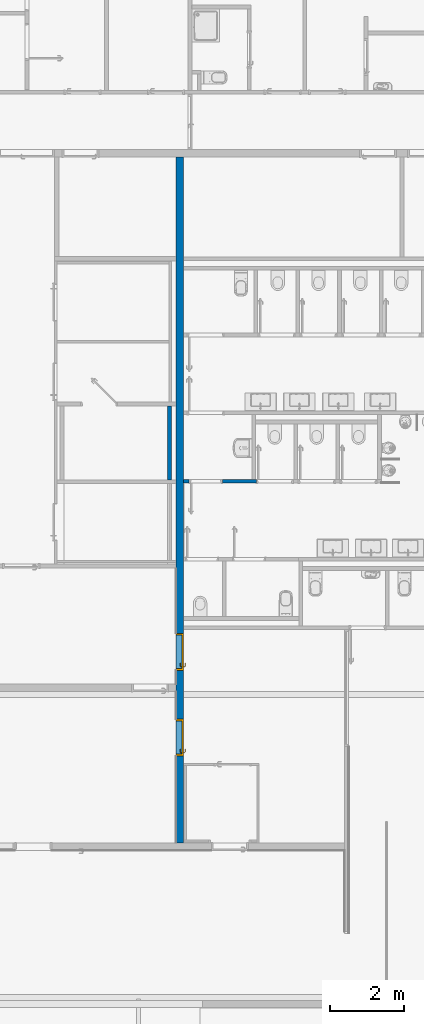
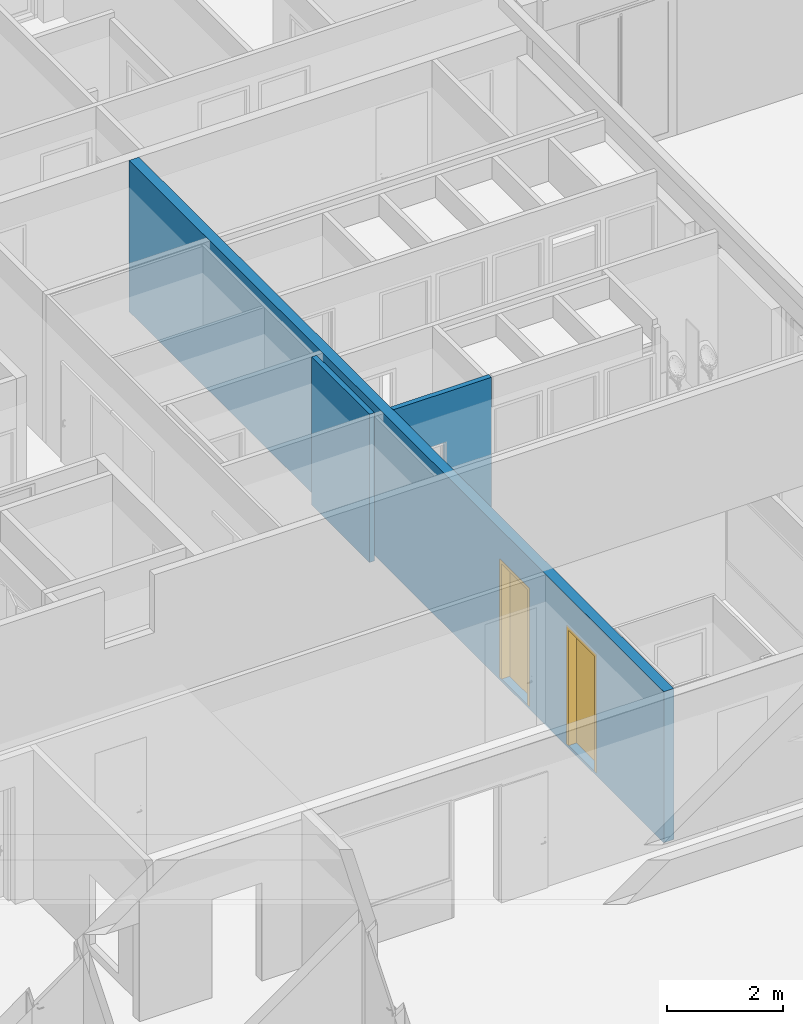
# One storey, part 99 of 240: 3 walls, 2 doors, 3 openings.
"""IFC2X3 building model written with IfcOpenShell, lengths in centimetres."""

import ifcopenshell
import ifcopenshell.guid

model = None  # the IFC model being written
_history = None  # IfcOwnerHistory: only IFC2X3 demands one
_inside = {}  # id of a spatial element -> (the spatial element, [elements in it])
_under = {}  # id of a project, library or spatial element -> (it, [spatial elements below it])
_declared = {}  # id of a project -> (the project, [libraries it declares])
_typed = {}  # id of a type object -> (the type object, [elements of that type])
_made_of = {}  # id of a material, layer set ... -> (it, [elements and type objects made of it])


def new_model(schema):
    """Start an empty IFC model of exactly this schema.

    Asked for "IFC4X3", IfcOpenShell would pick the latest addendum, in which some entities
    have other attributes; the version numbers below select the first issue.
    IFC2X3 requires an IfcOwnerHistory on every rooted entity: one is made here for all.
    """
    global model, _history
    if schema == "IFC4X3":
        model = ifcopenshell.file(schema_version=(4, 3, 0, 0))
    else:
        model = ifcopenshell.file(schema=schema)
    _inside.clear()
    _under.clear()
    _declared.clear()
    _typed.clear()
    _made_of.clear()
    _history = None
    if model.schema == "IFC2X3":
        org = make("IfcOrganization", Name="unknown")
        user = make(
            "IfcPersonAndOrganization",
            ThePerson=make("IfcPerson", FamilyName="unknown"),
            TheOrganization=org,
        )
        app = make(
            "IfcApplication",
            ApplicationDeveloper=org,
            Version="unknown",
            ApplicationFullName="unknown",
            ApplicationIdentifier="unknown",
        )
        _history = make(
            "IfcOwnerHistory",
            OwningUser=user,
            OwningApplication=app,
            ChangeAction="ADDED",
            CreationDate=0,
        )
    return model


def make(cls, **values):
    """One entity of the class cls with the attributes given. An attribute that is None is left unset."""
    return model.create_entity(
        cls, **{name: value for name, value in values.items() if value is not None}
    )


def entity(cls, *values):
    """Any entity or typed value of the class cls, its attributes in the order of the schema. None: left unset."""
    e = model.create_entity(cls)
    for i, value in enumerate(values):
        if value is not None:
            e[i] = value
    return e


def rooted(cls, **values):
    """An entity with a GlobalId (a new one), such as an element, a storey or a relation."""
    return make(cls, GlobalId=ifcopenshell.guid.new(), OwnerHistory=_history, **values)


def si_unit(unit_type, name, prefix=None):
    """IfcSIUnit, for example si_unit("LENGTHUNIT", "METRE", prefix="MILLI")."""
    return make("IfcSIUnit", UnitType=unit_type, Prefix=prefix, Name=name)


def converted_unit(unit_type, name, factor, base, dimensions=None, offset=None):
    """IfcConversionBasedUnit, such as the inch: factor (a typed value) times the base unit."""
    return make(
        "IfcConversionBasedUnit"
        if offset is None
        else "IfcConversionBasedUnitWithOffset",
        ConversionOffset=offset,
        Dimensions=None
        if dimensions is None
        else entity("IfcDimensionalExponents", *dimensions),
        UnitType=unit_type,
        Name=name,
        ConversionFactor=make(
            "IfcMeasureWithUnit", ValueComponent=factor, UnitComponent=base
        ),
    )


def derived_unit(unit_type, elements):
    """IfcDerivedUnit: a product of units, each with its exponent."""
    return make(
        "IfcDerivedUnit",
        Elements=[
            make("IfcDerivedUnitElement", Unit=unit, Exponent=power)
            for unit, power in elements
        ],
        UnitType=unit_type,
    )


def assignment(units):
    """IfcUnitAssignment: the units of a project."""
    return None if units is None else make("IfcUnitAssignment", Units=units)


def point(xyz):
    """IfcCartesianPoint."""
    return None if xyz is None else make("IfcCartesianPoint", Coordinates=xyz)


def direction(xyz):
    """IfcDirection."""
    return None if xyz is None else make("IfcDirection", DirectionRatios=xyz)


def frame(location, z_axis=None, x_axis=None):
    """IfcAxis2Placement3D, a coordinate frame: its origin and axes. An axis left out is left unset."""
    return make(
        "IfcAxis2Placement3D",
        Location=point(location),
        Axis=direction(z_axis),
        RefDirection=direction(x_axis),
    )


def frame_2d(location, x_axis=None):
    """IfcAxis2Placement2D, a coordinate frame in the plane: its origin and x axis."""
    return make(
        "IfcAxis2Placement2D", Location=point(location), RefDirection=direction(x_axis)
    )


def origin():
    """The frame at (0, 0, 0) with its axes left unset."""
    return frame((0.0, 0.0, 0.0))


def place(relative_to, where):
    """IfcLocalPlacement: puts the frame where relative to a parent placement (None: the world)."""
    return make(
        "IfcLocalPlacement", PlacementRelTo=relative_to, RelativePlacement=where
    )


def context(
    kind, dimensions, precision=None, world=None, true_north=None, identifier=None
):
    """IfcGeometricRepresentationContext, for example the 3D "Model" context."""
    return make(
        "IfcGeometricRepresentationContext",
        ContextIdentifier=identifier,
        ContextType=kind,
        CoordinateSpaceDimension=dimensions,
        Precision=precision,
        WorldCoordinateSystem=world,
        TrueNorth=true_north,
    )


def subcontext(parent, identifier, kind, view, scale=None):
    """IfcGeometricRepresentationSubContext, for example "Body" below "Model"."""
    return make(
        "IfcGeometricRepresentationSubContext",
        ContextIdentifier=identifier,
        ContextType=kind,
        ParentContext=parent,
        TargetScale=scale,
        TargetView=view,
    )


def project(units=None, contexts=None):
    """IfcProject with its units and contexts."""
    return rooted(
        "IfcProject",
        Name="project",
        RepresentationContexts=contexts,
        UnitsInContext=assignment(units),
    )


def spatial(cls, under=None, at=None, **own):
    """A site, building, storey or space (cls), placed at a placement, below another one or the project."""
    s = rooted(cls, ObjectPlacement=at, **own)
    if under is not None:
        _under.setdefault(under.id(), (under, []))[1].append(s)
    return s


def profile(cls, at=None, kind="AREA", **sizes):
    """A parametric profile (cls). Its sizes go by their IFC names, for example OverallWidth=200.0."""
    return make(cls, ProfileType=kind, Position=at, **sizes)


def rectangle(**sizes):
    """IfcRectangleProfileDef."""
    return profile("IfcRectangleProfileDef", **sizes)


def extrude(swept, where, along, depth):
    """IfcExtrudedAreaSolid: the profile swept, set in the frame where, extruded along a direction by depth."""
    return make(
        "IfcExtrudedAreaSolid",
        SweptArea=swept,
        Position=where,
        ExtrudedDirection=direction(along),
        Depth=depth,
    )


def faces_of(points, faces, orient=None, outer=None):
    """IfcFace entities. A face is a list of loops; a loop is a list of indices into points, from 0.

    orient and outer hold one flag for each loop. By default every Orientation is true, the
    first loop of a face is its IfcFaceOuterBound and the others are IfcFaceBound.
    """
    made = []
    for i, loops in enumerate(faces):
        bounds = []
        for j, loop in enumerate(loops):
            is_outer = j == 0 if outer is None else outer[i][j]
            bounds.append(
                make(
                    "IfcFaceOuterBound" if is_outer else "IfcFaceBound",
                    Bound=make("IfcPolyLoop", Polygon=[points[k] for k in loop]),
                    Orientation=True if orient is None else orient[i][j],
                )
            )
        made.append(make("IfcFace", Bounds=bounds))
    return made


def faceted_brep(points, faces, orient=None, outer=None, voids=None):
    """IfcFacetedBrep: a solid bounded by flat faces; with voids (closed shells), ...WithVoids."""
    shared = [point(p) for p in points]
    hull = make("IfcClosedShell", CfsFaces=faces_of(shared, faces, orient, outer))
    if voids is None:
        return make("IfcFacetedBrep", Outer=hull)
    return make(
        "IfcFacetedBrepWithVoids",
        Outer=hull,
        Voids=[
            make(cls, CfsFaces=faces_of(shared, fs, o, b)) for cls, fs, o, b in voids
        ],
    )


def shape(context_of_items, identifier, shape_type, items):
    """IfcShapeRepresentation: the items that make up one representation, for example the "Body"."""
    return make(
        "IfcShapeRepresentation",
        ContextOfItems=context_of_items,
        RepresentationIdentifier=identifier,
        RepresentationType=shape_type,
        Items=items,
    )


def source(mapping_origin, context_of_items, identifier, shape_type, items):
    """IfcRepresentationMap: a shape defined once, which mapped items show again and again."""
    return make(
        "IfcRepresentationMap",
        MappingOrigin=mapping_origin,
        MappedRepresentation=shape(context_of_items, identifier, shape_type, items),
    )


def transform(
    local_origin,
    x_axis=None,
    y_axis=None,
    z_axis=None,
    scale=None,
    scale2=None,
    scale3=None,
    uniform=True,
):
    """IfcCartesianTransformationOperator3D, or its non-uniform kind. x_axis, y_axis, z_axis: its Axis1, 2, 3."""
    if uniform:
        return make(
            "IfcCartesianTransformationOperator3D",
            Axis1=direction(x_axis),
            Axis2=direction(y_axis),
            LocalOrigin=point(local_origin),
            Scale=scale,
            Axis3=direction(z_axis),
        )
    return make(
        "IfcCartesianTransformationOperator3DnonUniform",
        Axis1=direction(x_axis),
        Axis2=direction(y_axis),
        LocalOrigin=point(local_origin),
        Scale=scale,
        Axis3=direction(z_axis),
        Scale2=scale2,
        Scale3=scale3,
    )


def mapped(mapping_source, mapping_target):
    """IfcMappedItem: shows the shape of a source again, moved by a transform."""
    return make(
        "IfcMappedItem", MappingSource=mapping_source, MappingTarget=mapping_target
    )


def material(Name=None, Category=None):
    """IfcMaterial."""
    return make("IfcMaterial", Name=Name, Category=Category)


def material_list(materials):
    """IfcMaterialList."""
    return make("IfcMaterialList", Materials=materials)


def layer(
    of_material, thickness, ventilated=None, Name=None, Category=None, Priority=None
):
    """IfcMaterialLayer: one layer of a wall or slab, of a material (None: an air gap)."""
    return make(
        "IfcMaterialLayer",
        Material=of_material,
        LayerThickness=thickness,
        IsVentilated=ventilated,
        Name=Name,
        Category=Category,
        Priority=Priority,
    )


def layer_set(layers, Name=None):
    """IfcMaterialLayerSet."""
    return make("IfcMaterialLayerSet", MaterialLayers=layers, LayerSetName=Name)


def layer_usage(for_layer_set, set_direction, sense, offset, extent=None):
    """IfcMaterialLayerSetUsage: how a layer set lies in its element."""
    return make(
        "IfcMaterialLayerSetUsage",
        ForLayerSet=for_layer_set,
        LayerSetDirection=set_direction,
        DirectionSense=sense,
        OffsetFromReferenceLine=offset,
        ReferenceExtent=extent,
    )


def made_of(thing, what):
    """Note that an element or type object is made of a material, layer set ...; save() writes the relation."""
    if what is not None:
        _made_of.setdefault(what.id(), (what, []))[1].append(thing)
    return thing


def type_object(cls, material=None, **own):
    """A type object (cls), such as IfcWallType, which elements share."""
    return made_of(rooted(cls, **own), material)


def type_shapes(of_type, sources):
    """Give a type object the sources (RepresentationMaps) that its elements show as mapped items."""
    of_type.RepresentationMaps = sources


def element(
    cls,
    number,
    at=None,
    inside=None,
    cuts=None,
    type_object=None,
    material=None,
    context=None,
    identifier="Body",
    shape_type=None,
    held_by="IfcProductDefinitionShape",
    body=None,
    shapes=None,
    **own,
):
    """One element of the class cls, such as IfcWall. Its Tag is "e" and its number.

    at: its placement. inside: the storey or other place that contains it. cuts: it is an
    opening in that element (IfcRelVoidsElement). A single representation is given by context,
    identifier, shape_type and body (its items); several are given by shapes. held_by: the class
    of the entity that holds the representations. save() writes the other relations.
    """
    e = rooted(cls, Tag="e%d" % number, ObjectPlacement=at, **own)
    if body is not None:
        shapes = [shape(context, identifier, shape_type, body)]
    if shapes is not None:
        e.Representation = make(held_by, Representations=shapes)
    if inside is not None:
        _inside.setdefault(inside.id(), (inside, []))[1].append(e)
    if cuts is not None:
        rooted(
            "IfcRelVoidsElement", RelatingBuildingElement=cuts, RelatedOpeningElement=e
        )
    if type_object is not None:
        _typed.setdefault(type_object.id(), (type_object, []))[1].append(e)
    return made_of(e, material)


def fill(opening, filler):
    """IfcRelFillsElement: the door or window that sits in an opening."""
    return rooted(
        "IfcRelFillsElement",
        RelatingOpeningElement=opening,
        RelatedBuildingElement=filler,
    )


def aggregate(whole, parts):
    """IfcRelAggregates: a whole, such as a stair, and the parts it consists of."""
    return rooted("IfcRelAggregates", RelatingObject=whole, RelatedObjects=parts)


def save(model, path):
    """Write the relations noted so far, then the file.

    IfcRelAggregates (storeys below a building ...), IfcRelContainedInSpatialStructure (elements
    in a storey), IfcRelDefinesByType, IfcRelAssociatesMaterial and IfcRelDeclares: one each for
    every whole, place, type object, material and project.
    """
    for whole, parts in _under.values():
        aggregate(whole, parts)
    for where, things in _inside.values():
        rooted(
            "IfcRelContainedInSpatialStructure",
            RelatedElements=things,
            RelatingStructure=where,
        )
    for kind, things in _typed.values():
        rooted("IfcRelDefinesByType", RelatedObjects=things, RelatingType=kind)
    for what, things in _made_of.values():
        rooted("IfcRelAssociatesMaterial", RelatedObjects=things, RelatingMaterial=what)
    for by, libraries in _declared.values():
        rooted("IfcRelDeclares", RelatingContext=by, RelatedDefinitions=libraries)
    model.write(path)


model = new_model("IFC2X3")

# Units and contexts
model_context = context("Model", 3, precision=0.001, world=origin(), true_north=direction((6.12303176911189e-17, 1.0)))
body_context = subcontext(model_context, "Body", "Model", "MODEL_VIEW")
ifc_project = project(units=[si_unit("LENGTHUNIT", "METRE", prefix="CENTI"), si_unit("AREAUNIT", "SQUARE_METRE"), si_unit("VOLUMEUNIT", "CUBIC_METRE"), converted_unit("PLANEANGLEUNIT", "DEGREE", entity("IfcRatioMeasure", 0.0174532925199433), si_unit("PLANEANGLEUNIT", "RADIAN"), dimensions=[0, 0, 0, 0, 0, 0, 0]), si_unit("MASSUNIT", "GRAM", prefix="KILO"), derived_unit("MASSDENSITYUNIT", [(si_unit("MASSUNIT", "GRAM", prefix="KILO"), 1), (si_unit("LENGTHUNIT", "METRE"), -3)]), si_unit("TIMEUNIT", "SECOND"), si_unit("FREQUENCYUNIT", "HERTZ"), si_unit("THERMODYNAMICTEMPERATUREUNIT", "DEGREE_CELSIUS"), derived_unit("THERMALTRANSMITTANCEUNIT", [(si_unit("MASSUNIT", "GRAM", prefix="KILO"), 1), (si_unit("THERMODYNAMICTEMPERATUREUNIT", "KELVIN"), -1), (si_unit("TIMEUNIT", "SECOND"), -3)]), derived_unit("VOLUMETRICFLOWRATEUNIT", [(si_unit("LENGTHUNIT", "METRE"), 3), (si_unit("TIMEUNIT", "SECOND"), -1)]), si_unit("ELECTRICCURRENTUNIT", "AMPERE"), si_unit("ELECTRICVOLTAGEUNIT", "VOLT"), si_unit("POWERUNIT", "WATT"), si_unit("FORCEUNIT", "NEWTON", prefix="KILO"), si_unit("ILLUMINANCEUNIT", "LUX"), si_unit("LUMINOUSFLUXUNIT", "LUMEN"), si_unit("LUMINOUSINTENSITYUNIT", "CANDELA"), derived_unit("USERDEFINED", [(si_unit("MASSUNIT", "GRAM", prefix="KILO"), -1), (si_unit("LENGTHUNIT", "METRE"), -2), (si_unit("TIMEUNIT", "SECOND"), 3), (si_unit("LUMINOUSFLUXUNIT", "LUMEN"), 1)]), derived_unit("LINEARVELOCITYUNIT", [(si_unit("LENGTHUNIT", "METRE"), 1), (si_unit("TIMEUNIT", "SECOND"), -1)]), si_unit("PRESSUREUNIT", "PASCAL"), derived_unit("USERDEFINED", [(si_unit("LENGTHUNIT", "METRE"), -2), (si_unit("MASSUNIT", "GRAM", prefix="KILO"), 1), (si_unit("TIMEUNIT", "SECOND"), -2)])], contexts=[model_context])

# Site, building, storey
site_placement = place(None, frame((-2781.94577612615, 7442.24238424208, 0.0)))
site = spatial("IfcSite", under=ifc_project, at=site_placement, Name="Default", CompositionType="ELEMENT")
building_placement = place(site_placement, origin())
building = spatial("IfcBuilding", under=site, at=building_placement, CompositionType="ELEMENT")
storey_placement = place(building_placement, origin())
storey = spatial("IfcBuildingStorey", under=building, at=storey_placement, Name="N00 - COO", CompositionType="ELEMENT", Elevation=0.0)

# Wall, openings, doors
ifc_material_1 = material(Name="01 - Maçonnerie")
ifc_layer_1 = layer(ifc_material_1, 20.0)
ifc_layer_set_1 = layer_set([ifc_layer_1], Name="Mur de base:04 - Structure - béton - 20cm")
ifc_layer_usage_1 = layer_usage(ifc_layer_set_1, "AXIS2", "NEGATIVE", 10.0)
wall_type_1 = type_object("IfcWallType", Name="Mur de base:04 - Structure - béton - 20cm", PredefinedType="STANDARD", material=ifc_layer_set_1)
wall_1_placement = place(building_placement, frame((-9687.0, -1930.07903364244, -6.0), z_axis=(0.0, 0.0, 1.0), x_axis=(0.0, -1.0, 0.0)))
wall_1 = element("IfcWallStandardCase", 1, at=wall_1_placement, inside=storey, type_object=wall_type_1, material=ifc_layer_usage_1, Name="Mur de base:04 - Structure - béton - 20cm", ObjectType="Mur de base:04 - Structure - béton - 20cm", context=body_context, shape_type="SweptSolid", body=[
    extrude(rectangle(XDim=1850.64062750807, YDim=19.9999999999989, at=frame_2d((925.320313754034, -6.21724893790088e-15), x_axis=(-1.0, 0.0))), origin(), (0.0, 0.0, 1.0), 319.0),
])
opening_1_placement = place(wall_1_placement, frame((1285.0, -10.0, 6.0)))
opening_1 = element("IfcOpeningElement", 2, at=opening_1_placement, cuts=wall_1, Name="Int. Simple:PP simple (0.93m x 2.50m):1", ObjectType="Opening", context=body_context, shape_type="SweptSolid", body=[
    extrude(rectangle(XDim=248.500000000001, YDim=99.9999999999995, at=frame_2d((124.250000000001, 49.9999999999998), x_axis=(1.0, 0.0))), frame((0.0, 0.0, 0.0), z_axis=(0.0, 1.0, 0.0), x_axis=(0.0, 0.0, 1.0)), (0.0, 0.0, 1.0), 20.0),
])
opening_2_placement = place(wall_1_placement, frame((1516.50000000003, -10.0, 6.0)))
opening_2 = element("IfcOpeningElement", 3, at=opening_2_placement, cuts=wall_1, Name="Int. Simple:PP simple (0.93m x 2.50m):1", ObjectType="Opening", context=body_context, shape_type="SweptSolid", body=[
    extrude(rectangle(XDim=248.500000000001, YDim=99.9999999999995, at=frame_2d((124.250000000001, 49.9999999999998), x_axis=(1.0, 0.0))), frame((0.0, 0.0, 0.0), z_axis=(0.0, 1.0, 0.0), x_axis=(0.0, 0.0, 1.0)), (0.0, 0.0, 1.0), 20.0),
])
ifc_material_2 = material(Name="Finition Peinture - Blanc satiné")
ifc_material_3 = material(Name="Bois - Panneau de porte")
ifc_material_4 = material(Name="Bois - Cadre de porte")
ifc_material_list_1 = material_list([ifc_material_2, ifc_material_3, ifc_material_4])
ifc_material_list_2 = material_list([ifc_material_2, ifc_material_3, ifc_material_4])
door_style = type_object("IfcDoorStyle", Name="PP simple (0.93m x 2.50m)", ConstructionType="NOTDEFINED", OperationType="SINGLE_SWING_LEFT", ParameterTakesPrecedence=False, Sizeable=False, material=ifc_material_list_2)
shared_shape = source(origin(), body_context, "Body", "Brep", [
    faceted_brep([(10.5352761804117, -0.500000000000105, 86.6003983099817), (11.5000000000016, -0.500000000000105, 87.0), (11.5000000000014, -0.500000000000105, 108.0), (10.5352761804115, -0.500000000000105, 108.399601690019), (9.50000000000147, -0.500000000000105, 108.535898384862), (8.46472381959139, -0.500000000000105, 108.399601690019), (7.50000000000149, -0.500000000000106, 108.0), (7.50000000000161, -0.500000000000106, 87.0), (8.46472381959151, -0.500000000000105, 86.6003983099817), (9.50000000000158, -0.500000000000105, 86.464101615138), (10.5352761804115, 0.0, 108.399601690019), (11.5000000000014, 0.0, 108.0), (11.5000000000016, 0.0, 87.0), (10.5352761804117, 0.0, 86.6003983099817), (9.50000000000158, 0.0, 86.464101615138), (8.46472381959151, 0.0, 86.6003983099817), (7.50000000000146, 0.0, 87.0), (7.50000000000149, 0.0, 108.0), (8.46472381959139, 0.0, 108.399601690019), (9.50000000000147, 0.0, 108.535898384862)], [[[0, 1, 2, 3, 4, 5, 6, 7, 8, 9]], [[10, 11, 12, 13, 14, 15, 16, 17, 18, 19]], [[16, 15, 8, 7]], [[8, 15, 14, 9]], [[14, 13, 0, 9]], [[13, 12, 1, 0]], [[2, 1, 12, 11]], [[11, 10, 3, 2]], [[3, 10, 19, 4]], [[19, 18, 5, 4]], [[18, 17, 6, 5]], [[7, 6, 17, 16]]]),
    faceted_brep([(10.5352761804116, 4.0, 86.6003983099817), (11.5000000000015, 4.0, 87.0), (11.5000000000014, 4.0, 108.0), (10.5352761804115, 4.0, 108.399601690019), (9.50000000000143, 4.0, 108.535898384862), (8.46472381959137, 4.0, 108.399601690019), (7.50000000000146, 4.0, 108.0), (7.50000000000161, 4.0, 87.0), (8.46472381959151, 4.0, 86.6003983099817), (9.50000000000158, 4.0, 86.464101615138), (10.5352761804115, 4.49999999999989, 108.399601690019), (11.5000000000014, 4.49999999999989, 108.0), (11.5000000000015, 4.49999999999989, 87.0), (10.5352761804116, 4.49999999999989, 86.6003983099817), (9.50000000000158, 4.49999999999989, 86.464101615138), (8.46472381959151, 4.49999999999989, 86.6003983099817), (7.50000000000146, 4.49999999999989, 87.0), (7.50000000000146, 4.49999999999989, 108.0), (8.46472381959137, 4.49999999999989, 108.399601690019), (9.50000000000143, 4.49999999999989, 108.535898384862)], [[[0, 1, 2, 3, 4, 5, 6, 7, 8, 9]], [[10, 11, 12, 13, 14, 15, 16, 17, 18, 19]], [[11, 10, 3, 2]], [[3, 10, 19, 4]], [[19, 18, 5, 4]], [[18, 17, 6, 5]], [[7, 6, 17, 16]], [[16, 15, 8, 7]], [[8, 15, 14, 9]], [[14, 13, 0, 9]], [[13, 12, 1, 0]], [[2, 1, 12, 11]]]),
    faceted_brep([(9.29747013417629, -0.500000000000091, 100.778044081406), (9.70252986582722, -0.500000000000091, 100.778044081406), (10.1000000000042, -0.500000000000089, 100.699999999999), (10.1000000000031, -0.500000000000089, 99.3000000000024), (9.7025298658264, -0.500000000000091, 99.2219559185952), (9.29747013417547, -0.500000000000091, 99.221955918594), (8.8999999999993, -0.500000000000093, 99.2999999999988), (8.89999999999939, -0.500000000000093, 100.7), (8.89999999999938, -3.26509507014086, 100.7), (9.29747013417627, -3.10045754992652, 100.778044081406), (10.9023585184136, -4.70534593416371, 100.778044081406), (11.0701397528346, -4.30028620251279, 100.778044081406), (9.7025298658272, -2.93267631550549, 100.778044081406), (10.1000000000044, -2.76803879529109, 100.7), (10.1000000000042, -2.76803879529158, 99.3000000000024), (9.7025298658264, -2.93267631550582, 99.2219559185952), (11.0701397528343, -4.30028620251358, 99.2219559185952), (10.9023585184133, -4.70534593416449, 99.221955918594), (9.29747013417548, -3.10045754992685, 99.221955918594), (8.89999999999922, -3.26509507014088, 99.2999999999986), (10.7377209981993, -5.10281606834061, 100.7), (11.2347772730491, -3.90281606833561, 100.7), (11.2347772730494, -3.90281606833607, 99.3000000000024), (10.7377209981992, -5.10281606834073, 99.2999999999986), (19.5018640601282, -5.1028160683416, 99.2999999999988), (19.5018640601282, -4.70534593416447, 99.221955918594), (19.5018640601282, -4.30028620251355, 99.2219559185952), (19.5018640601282, -3.90281606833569, 99.3000000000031), (19.5018640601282, -3.90281606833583, 100.7), (19.5018640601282, -4.30028620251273, 100.778044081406), (19.5018640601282, -4.70534593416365, 100.778044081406), (19.5018640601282, -5.10281606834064, 100.699999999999), (14.7307697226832, -5.10281606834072, 100.7), (15.2860019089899, -4.5028160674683, 100.78786867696), (15.3683206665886, -3.9028160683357, 100.7), (15.3683206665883, -3.90281606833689, 99.3000000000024), (15.2860018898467, -4.50281607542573, 99.2121313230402), (14.7307700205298, -5.10281606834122, 99.2999999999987)], [[[0, 1, 2, 3, 4, 5, 6, 7]], [[8, 9, 0, 7]], [[9, 10, 11, 12, 1, 0]], [[12, 13, 2, 1]], [[3, 2, 13, 14]], [[14, 15, 4, 3]], [[15, 16, 17, 18, 5, 4]], [[18, 19, 6, 5]], [[7, 6, 19, 8]], [[20, 10, 9, 8]], [[11, 21, 13, 12]], [[14, 13, 21, 22]], [[22, 16, 15, 14]], [[17, 23, 19, 18]], [[8, 19, 23, 20]], [[24, 25, 26, 27, 28, 29, 30, 31]], [[32, 30, 33]], [[31, 30, 32]], [[10, 20, 32]], [[33, 34, 11]], [[21, 11, 34]], [[34, 29, 28]], [[30, 29, 33]], [[29, 34, 33]], [[10, 32, 33]], [[10, 33, 11]], [[22, 21, 34, 28, 27, 35]], [[35, 26, 36]], [[37, 36, 25]], [[22, 35, 16]], [[35, 27, 26]], [[24, 37, 25]], [[23, 17, 37]], [[37, 17, 36]], [[17, 16, 36]], [[16, 35, 36]], [[25, 36, 26]], [[20, 23, 37, 24, 31, 32]]]),
    faceted_brep([(9.29747013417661, 4.49999999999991, 100.778044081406), (8.89999999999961, 4.4999999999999, 100.7), (8.89999999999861, 4.4999999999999, 99.2999999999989), (9.29747013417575, 4.49999999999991, 99.221955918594), (9.70252986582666, 4.49999999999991, 99.2219559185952), (10.1000000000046, 4.49999999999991, 99.3000000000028), (10.1000000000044, 4.49999999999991, 100.7), (9.70252986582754, 4.49999999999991, 100.778044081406), (10.1000000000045, 6.7485204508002, 99.3000000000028), (10.1000000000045, 6.74852045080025, 100.7), (9.70252986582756, 6.91315797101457, 100.778044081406), (11.083890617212, 8.29451872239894, 100.778044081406), (10.916109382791, 8.69957845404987, 100.778044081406), (9.29747013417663, 7.0809392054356, 100.778044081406), (8.89999999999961, 7.24557672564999, 100.7), (8.89999999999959, 7.2455767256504, 99.2999999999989), (9.29747013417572, 7.08093920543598, 99.221955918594), (10.9161093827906, 8.69957845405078, 99.221955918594), (11.0838906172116, 8.29451872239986, 99.2219559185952), (9.70252986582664, 6.91315797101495, 99.2219559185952), (11.2485281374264, 7.89704858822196, 99.3000000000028), (11.2485281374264, 7.89704858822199, 100.7), (10.7514718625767, 9.09704858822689, 100.7), (10.7514718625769, 9.0970485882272, 99.2999999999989), (19.5045783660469, 7.89704858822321, 99.3000000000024), (19.5045783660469, 8.29451872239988, 99.2219559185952), (19.5045783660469, 8.6995784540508, 99.221955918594), (19.5045783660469, 9.09704858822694, 99.2999999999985), (19.5045783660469, 9.09704858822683, 100.7), (19.5045783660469, 8.69957845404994, 100.778044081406), (19.5045783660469, 8.29451872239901, 100.778044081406), (19.5045783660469, 7.89704858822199, 100.7), (15.3765520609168, 7.89704858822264, 99.3000000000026), (15.3765532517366, 7.89704858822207, 100.7), (15.294234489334, 8.49704858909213, 100.78786867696), (14.7445205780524, 9.09704858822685, 100.7), (14.7445204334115, 9.09704858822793, 99.2999999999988), (15.2942345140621, 8.49704858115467, 99.2121313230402)], [[[0, 1, 2, 3, 4, 5, 6, 7]], [[6, 5, 8, 9]], [[9, 10, 7, 6]], [[10, 11, 12, 13, 0, 7]], [[13, 14, 1, 0]], [[2, 1, 14, 15]], [[15, 16, 3, 2]], [[16, 17, 18, 19, 4, 3]], [[19, 8, 5, 4]], [[9, 8, 20, 21]], [[21, 11, 10, 9]], [[12, 22, 14, 13]], [[15, 14, 22, 23]], [[23, 17, 16, 15]], [[18, 20, 8, 19]], [[24, 25, 26, 27, 28, 29, 30, 31]], [[21, 20, 32, 24, 31, 33]], [[33, 30, 34]], [[35, 34, 29]], [[21, 33, 11]], [[33, 31, 30]], [[28, 35, 29]], [[22, 12, 35]], [[35, 12, 34]], [[12, 11, 34]], [[11, 33, 34]], [[29, 34, 30]], [[22, 35, 28, 27, 36, 23]], [[36, 26, 37]], [[27, 26, 36]], [[17, 23, 36]], [[37, 32, 18]], [[20, 18, 32]], [[32, 25, 24]], [[26, 25, 37]], [[25, 32, 37]], [[17, 36, 37]], [[17, 37, 18]]]),
    faceted_brep([(3.50000000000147, 4.0, 245.0), (96.5000000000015, 4.0, 245.0), (96.5000000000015, 4.0, 0.0), (3.50000000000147, 4.0, 0.0), (3.50000000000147, 0.0, 245.0), (3.50000000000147, 0.0, 0.0), (96.5000000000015, 0.0, 0.0), (96.5000000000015, 0.0, 245.0)], [[[0, 1, 2, 3]], [[4, 5, 6, 7]], [[1, 0, 4, 7]], [[2, 1, 7, 6]], [[3, 2, 6, 5]], [[0, 3, 5, 4]]]),
    faceted_brep([(0.0, 20.0, 0.0), (-1.50000000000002, 20.0, 0.0), (-1.50000000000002, 20.5000000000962, 0.0), (5.0, 20.5000000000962, 0.0), (5.0, 4.0, 0.0), (3.50000000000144, 4.0, 0.0), (3.50000000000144, -0.500000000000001, 0.0), (-1.50000000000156, -0.500000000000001, 0.0), (-1.50000000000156, 0.0, 0.0), (0.0, 0.0, 0.0), (0.0, 0.0, 248.500000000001), (0.0, 20.0, 248.500000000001), (100.0, 20.0, 248.500000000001), (100.0, 20.0, 0.0), (101.5, 20.0, 0.0), (101.5, 20.0, 250.0), (-1.50000000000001, 20.0, 250.0), (5.0, 20.5000000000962, 243.5), (5.0, 4.0, 243.5), (95.0, 4.0, 243.5), (95.0, 4.0, 0.0), (96.499999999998, 4.0, 0.0), (96.499999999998, 4.0, 245.0), (3.50000000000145, 4.0, 245.0), (100.0, 0.0, 248.500000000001), (100.0, 0.0, 0.0), (101.500000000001, 0.0, 0.0), (101.500000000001, -0.500000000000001, 0.0), (96.499999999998, -0.500000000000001, 0.0), (95.0, 20.5000000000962, 0.0), (101.5, 20.5000000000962, 0.0), (95.0, 20.5000000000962, 243.5), (3.50000000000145, -0.500000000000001, 245.0), (96.499999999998, -0.500000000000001, 245.0), (101.500000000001, -0.500000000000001, 250.0), (-1.50000000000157, -0.500000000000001, 250.0), (-1.50000000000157, 0.0, 250.0), (101.500000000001, 0.0, 250.0), (-1.50000000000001, 20.5000000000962, 250.0), (101.5, 20.5000000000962, 250.0)], [[[0, 1, 2, 3, 4, 5, 6, 7, 8, 9]], [[0, 9, 10, 11]], [[1, 0, 11, 12, 13, 14, 15, 16]], [[3, 17, 18, 4]], [[5, 4, 18, 19, 20, 21, 22, 23]], [[12, 24, 25, 13]], [[13, 25, 26, 27, 28, 21, 20, 29, 30, 14]], [[19, 31, 29, 20]], [[11, 10, 24, 12]], [[18, 17, 31, 19]], [[5, 23, 32, 6]], [[7, 6, 32, 33, 28, 27, 34, 35]], [[8, 7, 35, 36]], [[9, 8, 36, 37, 26, 25, 24, 10]], [[2, 1, 16, 38]], [[3, 2, 38, 39, 30, 29, 31, 17]], [[33, 22, 21, 28]], [[37, 34, 27, 26]], [[39, 15, 14, 30]], [[32, 23, 22, 33]], [[36, 35, 34, 37]], [[38, 16, 15, 39]]]),
])
type_shapes(door_style, [shared_shape])
door_1_placement = place(opening_1_placement, frame((100.0, 20.0, 0.0), z_axis=(0.0, 0.0, 1.0), x_axis=(-1.0, 0.0, 0.0)))
door_1 = element("IfcDoor", 4, at=door_1_placement, inside=storey, type_object=door_style, material=ifc_material_list_1, Name="Int. Simple:PP simple (0.93m x 2.50m)", ObjectType="Int. Simple:PP simple (0.93m x 2.50m)", OverallHeight=248.500000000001, OverallWidth=99.9999999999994, context=body_context, shape_type="MappedRepresentation", body=[
    mapped(shared_shape, transform((0.0, 0.0, 0.0), scale=1.0)),
])
fill(opening_1, door_1)
ifc_material_list_3 = material_list([ifc_material_2, ifc_material_3, ifc_material_4])
door_2_placement = place(opening_2_placement, frame((100.0, 20.0, 0.0), z_axis=(0.0, 0.0, 1.0), x_axis=(-1.0, 0.0, 0.0)))
door_2 = element("IfcDoor", 5, at=door_2_placement, inside=storey, type_object=door_style, material=ifc_material_list_3, Name="Int. Simple:PP simple (0.93m x 2.50m)", ObjectType="Int. Simple:PP simple (0.93m x 2.50m)", OverallHeight=248.500000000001, OverallWidth=99.9999999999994, context=body_context, shape_type="MappedRepresentation", body=[
    mapped(shared_shape, transform((0.0, 0.0, 0.0), scale=1.0)),
])
fill(opening_2, door_2)

# Wall, opening
ifc_material_5 = material(Name="01 - Enduit/Plâtre")
ifc_layer_2 = layer(ifc_material_5, 1.3)
ifc_material_6 = material(Name="Terre cuite")
ifc_layer_3 = layer(ifc_material_6, 7.4)
ifc_layer_4 = layer(ifc_material_5, 1.3)
ifc_layer_set_2 = layer_set([ifc_layer_2, ifc_layer_3, ifc_layer_4], Name="Mur de base:06 - cloisons - Carreau de terre cuite (10cm)")
ifc_layer_usage_2 = layer_usage(ifc_layer_set_2, "AXIS2", "NEGATIVE", 5.0)
wall_type_2 = type_object("IfcWallType", Name="Mur de base:06 - cloisons - Carreau de terre cuite (10cm)", PredefinedType="STANDARD", material=ifc_layer_set_2)
wall_2_placement = place(building_placement, frame((-9677.0, -2805.07903364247, 0.0)))
wall_2 = element("IfcWallStandardCase", 6, at=wall_2_placement, inside=storey, type_object=wall_type_2, material=ifc_layer_usage_2, Name="Mur de base:06 - cloisons - Carreau de terre cuite (10cm)", ObjectType="Mur de base:06 - cloisons - Carreau de terre cuite (10cm)", context=body_context, shape_type="SweptSolid", body=[
    extrude(rectangle(XDim=196.499999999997, YDim=10.0000000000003, at=frame_2d((98.2499999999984, 5.81756864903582e-14), x_axis=(-1.0, 0.0))), origin(), (0.0, 0.0, 1.0), 313.0),
])
opening_3_placement = place(wall_2_placement, frame((105.000003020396, 5.0, 0.0)))
element("IfcOpeningElement", 7, at=opening_3_placement, cuts=wall_2, Name="Int. Simple:PP (0.83m x 2.04m):1", ObjectType="Opening", context=body_context, shape_type="SweptSolid", body=[
    extrude(rectangle(XDim=207.5, YDim=90.0, at=frame_2d((103.75, 45.0), x_axis=(1.0, 0.0))), frame((0.0, 0.0, 0.0), z_axis=(0.0, -1.0, 0.0), x_axis=(0.0, 0.0, 1.0)), (0.0, 0.0, 1.0), 10.0),
])

# Wall
ifc_material_7 = material(Name="Plastique, blanc opaque")
ifc_layer_5 = layer(ifc_material_7, 0.2)
ifc_material_8 = material(Name="00 - Isolant cloison Frigo")
ifc_layer_6 = layer(ifc_material_8, 9.6)
ifc_layer_7 = layer(ifc_material_7, 0.2)
ifc_layer_set_3 = layer_set([ifc_layer_5, ifc_layer_6, ifc_layer_7], Name="Mur de base:06 - cloisons - cuisine 10cm")
ifc_layer_usage_3 = layer_usage(ifc_layer_set_3, "AXIS2", "NEGATIVE", 5.0)
wall_type_3 = type_object("IfcWallType", Name="Mur de base:06 - cloisons - cuisine 10cm", PredefinedType="STANDARD", material=ifc_layer_set_3)
wall_3_placement = place(building_placement, frame((-9714.4999969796, -2801.29187595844, 0.0), z_axis=(0.0, 0.0, 1.0), x_axis=(0.0, 1.0, 0.0)))
element("IfcWallStandardCase", 8, at=wall_3_placement, inside=storey, type_object=wall_type_3, material=ifc_layer_usage_3, Name="Mur de base:06 - cloisons - cuisine 10cm", ObjectType="Mur de base:06 - cloisons - cuisine 10cm", context=body_context, shape_type="SweptSolid", body=[
    extrude(rectangle(XDim=200.005339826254, YDim=10.0000000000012, at=frame_2d((100.002669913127, 0.0), x_axis=(-1.0, 0.0))), origin(), (0.0, 0.0, 1.0), 313.00000000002),
])

save(model, "model.ifc")
